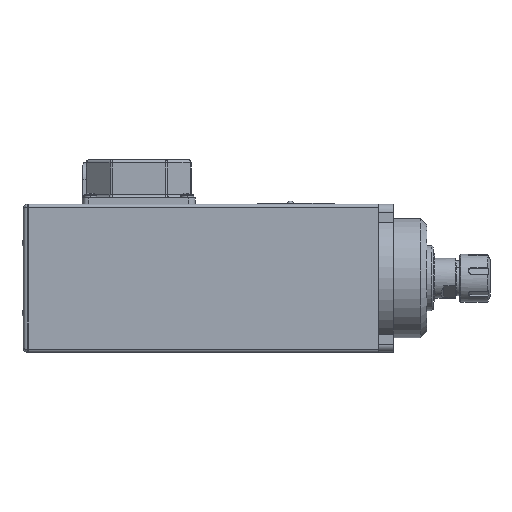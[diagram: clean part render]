
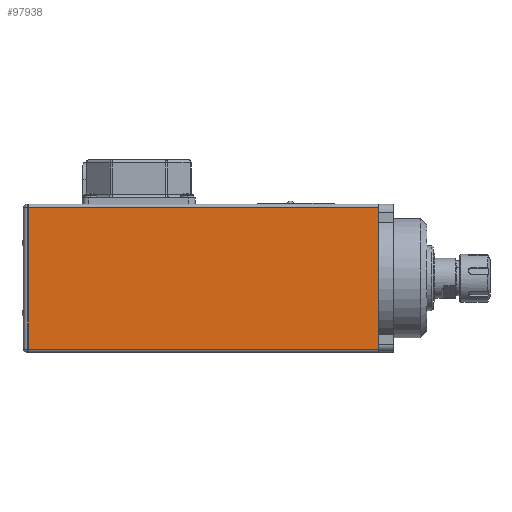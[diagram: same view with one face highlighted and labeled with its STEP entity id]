
A CAD part, left-side view. The second image highlights one B-rep face of the part: STEP entity #97938.
In plain terms, the highlighted planar face has unit normal (-1, 0, 0).
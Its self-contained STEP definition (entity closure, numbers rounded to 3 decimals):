
#2494 = CARTESIAN_POINT ( 'NONE',  ( -41.5, 220., -44.5 ) ) ;
#4532 = CARTESIAN_POINT ( 'NONE',  ( -41.5, 220., 44.5 ) ) ;
#12908 = VERTEX_POINT ( 'NONE', #122698 ) ;
#17192 = LINE ( 'NONE', #4532, #95611 ) ;
#19132 = ORIENTED_EDGE ( 'NONE', *, *, #96752, .T. ) ;
#28133 = EDGE_CURVE ( 'NONE', #35120, #12908, #17192, .T. ) ;
#32700 = CARTESIAN_POINT ( 'NONE',  ( -41.5, 220., 44.5 ) ) ;
#35120 = VERTEX_POINT ( 'NONE', #32700 ) ;
#40132 = VECTOR ( 'NONE', #66153, 1000. ) ;
#40441 = VECTOR ( 'NONE', #90066, 1000. ) ;
#43699 = FACE_OUTER_BOUND ( 'NONE', #86223, .T. ) ;
#50015 = AXIS2_PLACEMENT_3D ( 'NONE', #77723, #65127, #52554 ) ;
#52554 = DIRECTION ( 'NONE',  ( 0., 0., -1. ) ) ;
#56165 = EDGE_CURVE ( 'NONE', #94431, #12908, #107037, .T. ) ;
#58916 = VERTEX_POINT ( 'NONE', #2494 ) ;
#63692 = ORIENTED_EDGE ( 'NONE', *, *, #56165, .T. ) ;
#65127 = DIRECTION ( 'NONE',  ( 1., 0., 0. ) ) ;
#66153 = DIRECTION ( 'NONE',  ( 0., 0., 1. ) ) ;
#70581 = ORIENTED_EDGE ( 'NONE', *, *, #28133, .F. ) ;
#77723 = CARTESIAN_POINT ( 'NONE',  ( -41.5, 220., 44.5 ) ) ;
#78752 = CARTESIAN_POINT ( 'NONE',  ( -41.5, 220., 44.5 ) ) ;
#81813 = DIRECTION ( 'NONE',  ( 0., 0., 1. ) ) ;
#86223 = EDGE_LOOP ( 'NONE', ( #63692, #70581, #87149, #19132 ) ) ;
#87149 = ORIENTED_EDGE ( 'NONE', *, *, #90303, .F. ) ;
#90066 = DIRECTION ( 'NONE',  ( 0., -1., 0. ) ) ;
#90291 = PLANE ( 'NONE',  #50015 ) ;
#90303 = EDGE_CURVE ( 'NONE', #58916, #35120, #91341, .T. ) ;
#91341 = LINE ( 'NONE', #78752, #40132 ) ;
#92784 = CARTESIAN_POINT ( 'NONE',  ( -41.5, 0., -44.5 ) ) ;
#94399 = CARTESIAN_POINT ( 'NONE',  ( -41.5, 0., 44.5 ) ) ;
#94431 = VERTEX_POINT ( 'NONE', #92784 ) ;
#95611 = VECTOR ( 'NONE', #114947, 1000. ) ;
#96752 = EDGE_CURVE ( 'NONE', #58916, #94431, #115322, .T. ) ;
#97938 = ADVANCED_FACE ( 'NONE', ( #43699 ), #90291, .F. ) ;
#98406 = VECTOR ( 'NONE', #81813, 1000. ) ;
#102685 = CARTESIAN_POINT ( 'NONE',  ( -41.5, 220., -44.5 ) ) ;
#107037 = LINE ( 'NONE', #94399, #98406 ) ;
#114947 = DIRECTION ( 'NONE',  ( 0., -1., 0. ) ) ;
#115322 = LINE ( 'NONE', #102685, #40441 ) ;
#122698 = CARTESIAN_POINT ( 'NONE',  ( -41.5, 0., 44.5 ) ) ;
